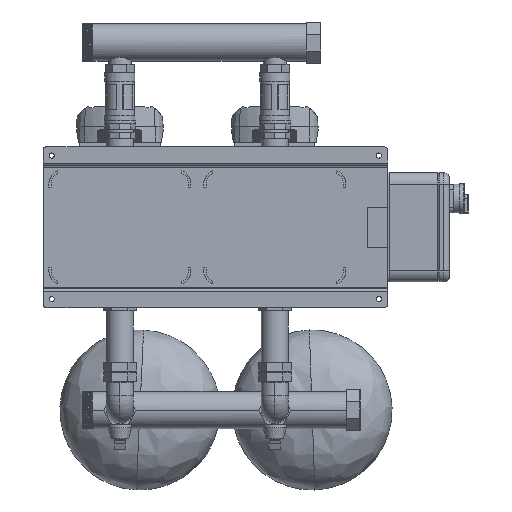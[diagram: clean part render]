
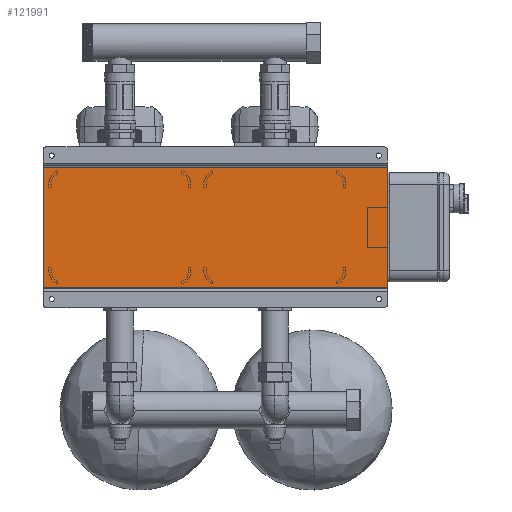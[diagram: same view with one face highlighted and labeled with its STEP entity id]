
A CAD part, front view. The second image highlights one B-rep face of the part: STEP entity #121991.
In plain terms, the highlighted planar face has unit normal (0, -1, 0).
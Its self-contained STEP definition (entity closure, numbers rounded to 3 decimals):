
#8745 = DIRECTION ( 'NONE',  ( -1., 0., 0. ) ) ;
#11054 = CARTESIAN_POINT ( 'NONE',  ( 300., 51., -105. ) ) ;
#11798 = ORIENTED_EDGE ( 'NONE', *, *, #153052, .F. ) ;
#13412 = DIRECTION ( 'NONE',  ( 0., 0., -1. ) ) ;
#14214 = EDGE_LOOP ( 'NONE', ( #15268, #107328, #11798, #52555 ) ) ;
#14490 = AXIS2_PLACEMENT_3D ( 'NONE', #11054, #79744, #81575 ) ;
#14532 = LINE ( 'NONE', #71118, #28722 ) ;
#15268 = ORIENTED_EDGE ( 'NONE', *, *, #136744, .T. ) ;
#28315 = CARTESIAN_POINT ( 'NONE',  ( -300., 51., -105. ) ) ;
#28722 = VECTOR ( 'NONE', #127836, 1000. ) ;
#38899 = VECTOR ( 'NONE', #8745, 1000. ) ;
#52555 = ORIENTED_EDGE ( 'NONE', *, *, #84672, .T. ) ;
#54028 = VERTEX_POINT ( 'NONE', #129072 ) ;
#69583 = VERTEX_POINT ( 'NONE', #164583 ) ;
#71118 = CARTESIAN_POINT ( 'NONE',  ( 300., 51., 105. ) ) ;
#79744 = DIRECTION ( 'NONE',  ( 0., 1., 0. ) ) ;
#81575 = DIRECTION ( 'NONE',  ( 0., 0., 1. ) ) ;
#84672 = EDGE_CURVE ( 'NONE', #87445, #69583, #162150, .T. ) ;
#87445 = VERTEX_POINT ( 'NONE', #113506 ) ;
#90464 = CARTESIAN_POINT ( 'NONE',  ( 300., 51., 105. ) ) ;
#105824 = FACE_OUTER_BOUND ( 'NONE', #14214, .T. ) ;
#107328 = ORIENTED_EDGE ( 'NONE', *, *, #169172, .F. ) ;
#107683 = PLANE ( 'NONE',  #14490 ) ;
#108379 = VECTOR ( 'NONE', #112376, 1000. ) ;
#112376 = DIRECTION ( 'NONE',  ( -1., 0., 0. ) ) ;
#113506 = CARTESIAN_POINT ( 'NONE',  ( 300., 51., 105. ) ) ;
#119301 = CARTESIAN_POINT ( 'NONE',  ( 300., 51., -105. ) ) ;
#121991 = ADVANCED_FACE ( 'NONE', ( #105824 ), #107683, .F. ) ;
#125783 = LINE ( 'NONE', #28315, #156699 ) ;
#127836 = DIRECTION ( 'NONE',  ( 0., 0., -1. ) ) ;
#129072 = CARTESIAN_POINT ( 'NONE',  ( -300., 51., -105. ) ) ;
#136744 = EDGE_CURVE ( 'NONE', #69583, #54028, #125783, .T. ) ;
#153052 = EDGE_CURVE ( 'NONE', #87445, #178021, #14532, .T. ) ;
#156699 = VECTOR ( 'NONE', #13412, 1000. ) ;
#162150 = LINE ( 'NONE', #90464, #38899 ) ;
#164583 = CARTESIAN_POINT ( 'NONE',  ( -300., 51., 105. ) ) ;
#169172 = EDGE_CURVE ( 'NONE', #178021, #54028, #170111, .T. ) ;
#170111 = LINE ( 'NONE', #181328, #108379 ) ;
#178021 = VERTEX_POINT ( 'NONE', #119301 ) ;
#181328 = CARTESIAN_POINT ( 'NONE',  ( 300., 51., -105. ) ) ;
